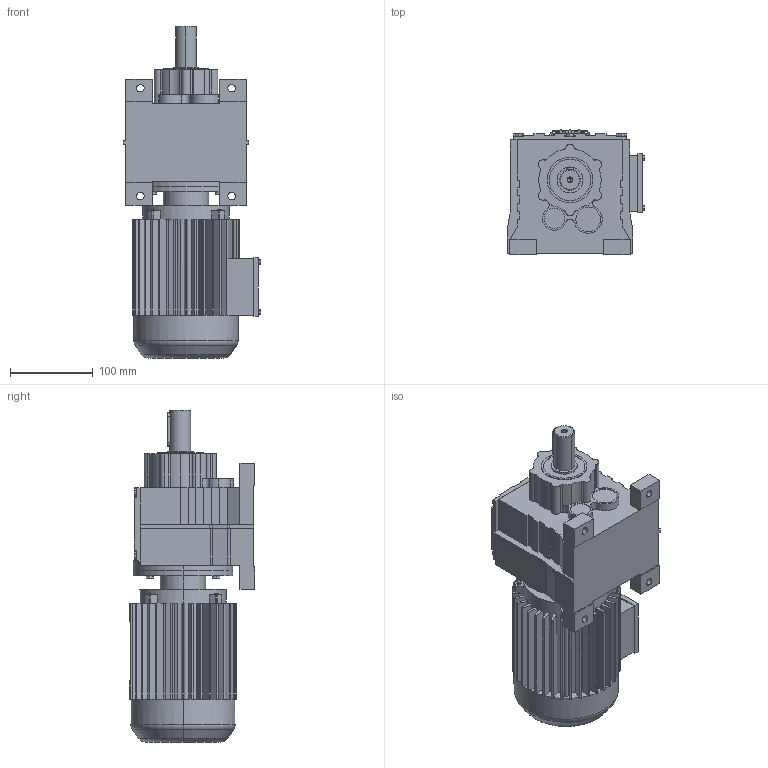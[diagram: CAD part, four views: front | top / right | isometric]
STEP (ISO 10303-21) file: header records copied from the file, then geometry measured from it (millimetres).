
FILE_DESCRIPTION(('Open CASCADE Model'),'2;1');
FILE_NAME('Open CASCADE Shape Model','2021-07-13T14:02:49',('Author'),( 'Open CASCADE'),'Open CASCADE STEP processor 6.3','Open CASCADE 6.3' ,'Unknown');
FILE_SCHEMA(('AUTOMOTIVE_DESIGN_CC2 { 1 2 10303 214 -1 1 5 4 }'));
Length unit declared in the file: millimetre
Products named in the file (3): 1_R27-Y63S; R07‵27_27.step; 萇儂_120_Y63S.step
Assembly tree (2 placements, depth 2):
  1_R27-Y63S
    R07‵27_27.step
    萇儂_120_Y63S.step
Bounding box: 165.5 x 151.6 x 400 mm (x, y, z)
Volume: 4385023 mm3; surface area: 351208.7 mm2
Topology: 2 solids, 2 shells, 709 faces, 1899 edges, 1228 vertices
Faces by surface type: plane 505, cylinder 192, cone 8, torus 4
Entity records: 47342 total; most frequent: CARTESIAN_POINT 11050, DIRECTION 6353, ORIENTED_EDGE 3794, PCURVE 3794, DEFINITIONAL_REPRESENTATION 3794, LINE 3562, VECTOR 3562, EDGE_CURVE 1897
